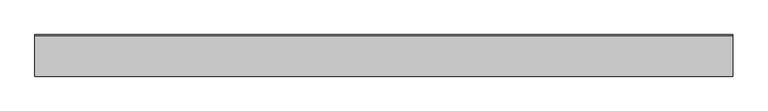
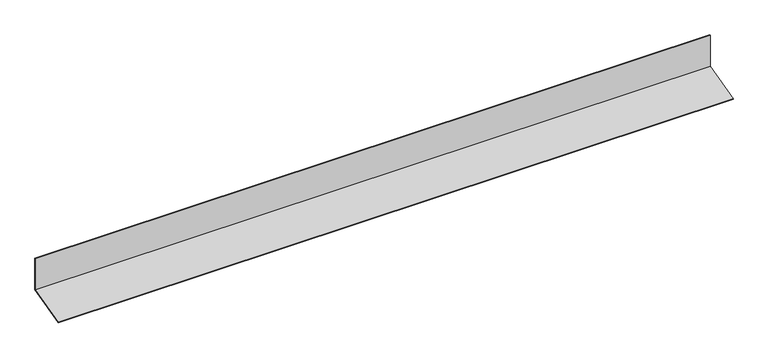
"""IFC4 building model written with IfcOpenShell, lengths in millimetres: proxy geometry, Translucent Sheet Stopend Flashing1 : Translucent Sheet Stopend Flashing."""

import ifcopenshell
import ifcopenshell.guid

model = None  # the IFC model being written
_history = None  # IfcOwnerHistory: only IFC2X3 demands one
_inside = {}  # id of a spatial element -> (the spatial element, [elements in it])
_under = {}  # id of a project, library or spatial element -> (it, [spatial elements below it])
_declared = {}  # id of a project -> (the project, [libraries it declares])
_typed = {}  # id of a type object -> (the type object, [elements of that type])
_made_of = {}  # id of a material, layer set ... -> (it, [elements and type objects made of it])


def new_model(schema):
    """Start an empty IFC model of exactly this schema.

    Asked for "IFC4X3", IfcOpenShell would pick the latest addendum, in which some entities
    have other attributes; the version numbers below select the first issue.
    IFC2X3 requires an IfcOwnerHistory on every rooted entity: one is made here for all.
    """
    global model, _history
    if schema == "IFC4X3":
        model = ifcopenshell.file(schema_version=(4, 3, 0, 0))
    else:
        model = ifcopenshell.file(schema=schema)
    _inside.clear()
    _under.clear()
    _declared.clear()
    _typed.clear()
    _made_of.clear()
    _history = None
    if model.schema == "IFC2X3":
        org = make("IfcOrganization", Name="unknown")
        user = make(
            "IfcPersonAndOrganization",
            ThePerson=make("IfcPerson", FamilyName="unknown"),
            TheOrganization=org,
        )
        app = make(
            "IfcApplication",
            ApplicationDeveloper=org,
            Version="unknown",
            ApplicationFullName="unknown",
            ApplicationIdentifier="unknown",
        )
        _history = make(
            "IfcOwnerHistory",
            OwningUser=user,
            OwningApplication=app,
            ChangeAction="ADDED",
            CreationDate=0,
        )
    return model


def make(cls, **values):
    """One entity of the class cls with the attributes given. An attribute that is None is left unset."""
    return model.create_entity(
        cls, **{name: value for name, value in values.items() if value is not None}
    )


def rooted(cls, **values):
    """An entity with a GlobalId (a new one), such as an element, a storey or a relation."""
    return make(cls, GlobalId=ifcopenshell.guid.new(), OwnerHistory=_history, **values)


def si_unit(unit_type, name, prefix=None):
    """IfcSIUnit, for example si_unit("LENGTHUNIT", "METRE", prefix="MILLI")."""
    return make("IfcSIUnit", UnitType=unit_type, Prefix=prefix, Name=name)


def assignment(units):
    """IfcUnitAssignment: the units of a project."""
    return None if units is None else make("IfcUnitAssignment", Units=units)


def point(xyz):
    """IfcCartesianPoint."""
    return None if xyz is None else make("IfcCartesianPoint", Coordinates=xyz)


def direction(xyz):
    """IfcDirection."""
    return None if xyz is None else make("IfcDirection", DirectionRatios=xyz)


def frame(location, z_axis=None, x_axis=None):
    """IfcAxis2Placement3D, a coordinate frame: its origin and axes. An axis left out is left unset."""
    return make(
        "IfcAxis2Placement3D",
        Location=point(location),
        Axis=direction(z_axis),
        RefDirection=direction(x_axis),
    )


def origin():
    """The frame at (0, 0, 0) with its axes left unset."""
    return frame((0.0, 0.0, 0.0))


def place(relative_to, where):
    """IfcLocalPlacement: puts the frame where relative to a parent placement (None: the world)."""
    return make(
        "IfcLocalPlacement", PlacementRelTo=relative_to, RelativePlacement=where
    )


def context(
    kind, dimensions, precision=None, world=None, true_north=None, identifier=None
):
    """IfcGeometricRepresentationContext, for example the 3D "Model" context."""
    return make(
        "IfcGeometricRepresentationContext",
        ContextIdentifier=identifier,
        ContextType=kind,
        CoordinateSpaceDimension=dimensions,
        Precision=precision,
        WorldCoordinateSystem=world,
        TrueNorth=true_north,
    )


def project(units=None, contexts=None):
    """IfcProject with its units and contexts."""
    return rooted(
        "IfcProject",
        Name="project",
        RepresentationContexts=contexts,
        UnitsInContext=assignment(units),
    )


def spatial(cls, under=None, at=None, **own):
    """A site, building, storey or space (cls), placed at a placement, below another one or the project."""
    s = rooted(cls, ObjectPlacement=at, **own)
    if under is not None:
        _under.setdefault(under.id(), (under, []))[1].append(s)
    return s


def polyline(points):
    """IfcPolyline through the points."""
    return make("IfcPolyline", Points=[point(p) for p in points])


def outline(outer, holes=None, kind="AREA"):
    """IfcArbitraryClosedProfileDef: a profile drawn as a closed curve; with holes, ...WithVoids."""
    if holes is None:
        return make("IfcArbitraryClosedProfileDef", ProfileType=kind, OuterCurve=outer)
    return make(
        "IfcArbitraryProfileDefWithVoids",
        ProfileType=kind,
        OuterCurve=outer,
        InnerCurves=holes,
    )


def extrude(swept, where, along, depth):
    """IfcExtrudedAreaSolid: the profile swept, set in the frame where, extruded along a direction by depth."""
    return make(
        "IfcExtrudedAreaSolid",
        SweptArea=swept,
        Position=where,
        ExtrudedDirection=direction(along),
        Depth=depth,
    )


def shape(context_of_items, identifier, shape_type, items):
    """IfcShapeRepresentation: the items that make up one representation, for example the "Body"."""
    return make(
        "IfcShapeRepresentation",
        ContextOfItems=context_of_items,
        RepresentationIdentifier=identifier,
        RepresentationType=shape_type,
        Items=items,
    )


def source(mapping_origin, context_of_items, identifier, shape_type, items):
    """IfcRepresentationMap: a shape defined once, which mapped items show again and again."""
    return make(
        "IfcRepresentationMap",
        MappingOrigin=mapping_origin,
        MappedRepresentation=shape(context_of_items, identifier, shape_type, items),
    )


def transform(
    local_origin,
    x_axis=None,
    y_axis=None,
    z_axis=None,
    scale=None,
    scale2=None,
    scale3=None,
    uniform=True,
):
    """IfcCartesianTransformationOperator3D, or its non-uniform kind. x_axis, y_axis, z_axis: its Axis1, 2, 3."""
    if uniform:
        return make(
            "IfcCartesianTransformationOperator3D",
            Axis1=direction(x_axis),
            Axis2=direction(y_axis),
            LocalOrigin=point(local_origin),
            Scale=scale,
            Axis3=direction(z_axis),
        )
    return make(
        "IfcCartesianTransformationOperator3DnonUniform",
        Axis1=direction(x_axis),
        Axis2=direction(y_axis),
        LocalOrigin=point(local_origin),
        Scale=scale,
        Axis3=direction(z_axis),
        Scale2=scale2,
        Scale3=scale3,
    )


def mapped(mapping_source, mapping_target):
    """IfcMappedItem: shows the shape of a source again, moved by a transform."""
    return make(
        "IfcMappedItem", MappingSource=mapping_source, MappingTarget=mapping_target
    )


def made_of(thing, what):
    """Note that an element or type object is made of a material, layer set ...; save() writes the relation."""
    if what is not None:
        _made_of.setdefault(what.id(), (what, []))[1].append(thing)
    return thing


def element(
    cls,
    number,
    at=None,
    inside=None,
    cuts=None,
    type_object=None,
    material=None,
    context=None,
    identifier="Body",
    shape_type=None,
    held_by="IfcProductDefinitionShape",
    body=None,
    shapes=None,
    **own,
):
    """One element of the class cls, such as IfcWall. Its Tag is "e" and its number.

    at: its placement. inside: the storey or other place that contains it. cuts: it is an
    opening in that element (IfcRelVoidsElement). A single representation is given by context,
    identifier, shape_type and body (its items); several are given by shapes. held_by: the class
    of the entity that holds the representations. save() writes the other relations.
    """
    e = rooted(cls, Tag="e%d" % number, ObjectPlacement=at, **own)
    if body is not None:
        shapes = [shape(context, identifier, shape_type, body)]
    if shapes is not None:
        e.Representation = make(held_by, Representations=shapes)
    if inside is not None:
        _inside.setdefault(inside.id(), (inside, []))[1].append(e)
    if cuts is not None:
        rooted(
            "IfcRelVoidsElement", RelatingBuildingElement=cuts, RelatedOpeningElement=e
        )
    if type_object is not None:
        _typed.setdefault(type_object.id(), (type_object, []))[1].append(e)
    return made_of(e, material)


def aggregate(whole, parts):
    """IfcRelAggregates: a whole, such as a stair, and the parts it consists of."""
    return rooted("IfcRelAggregates", RelatingObject=whole, RelatedObjects=parts)


def save(model, path):
    """Write the relations noted so far, then the file.

    IfcRelAggregates (storeys below a building ...), IfcRelContainedInSpatialStructure (elements
    in a storey), IfcRelDefinesByType, IfcRelAssociatesMaterial and IfcRelDeclares: one each for
    every whole, place, type object, material and project.
    """
    for whole, parts in _under.values():
        aggregate(whole, parts)
    for where, things in _inside.values():
        rooted(
            "IfcRelContainedInSpatialStructure",
            RelatedElements=things,
            RelatingStructure=where,
        )
    for kind, things in _typed.values():
        rooted("IfcRelDefinesByType", RelatedObjects=things, RelatingType=kind)
    for what, things in _made_of.values():
        rooted("IfcRelAssociatesMaterial", RelatedObjects=things, RelatingMaterial=what)
    for by, libraries in _declared.values():
        rooted("IfcRelDeclares", RelatingContext=by, RelatedDefinitions=libraries)
    model.write(path)


def generic_models_ed2bcc53(model_context):
    return source(origin(), model_context, "Body", "SweptSolid", [
        extrude(outline(polyline([(-10132.2979315, 1774.4460745), (-10132.2979315, 1830.0913228), (-10131.2979315, 1830.0913228), (-10131.2979315, 1773.6787475), (-10199.553268, 1755.3897852), (-10199.812087, 1756.355711), (-10132.2979315, 1774.4460745)])), frame((-8420.666048, 0.0, 0.0), z_axis=(1.0, 0.0, 0.0), x_axis=(0.0, 1.0, 0.0)), (0.0, 0.0, 1.0), 1150.0),
    ])


if __name__ == "__main__":
    model = new_model("IFC4")
    model_context = context("Model", 3, world=origin())
    ifc_project = project(units=[si_unit("LENGTHUNIT", "METRE", prefix="MILLI")], contexts=[model_context])
    site = spatial("IfcSite", under=ifc_project)
    building = spatial("IfcBuilding", under=site)
    placement = place(None, origin())
    generic_models_shape = generic_models_ed2bcc53(model_context)
    element("IfcBuildingElementProxy", 1, Name="Translucent Sheet Stopend Flashing1 : Translucent Sheet Stopend Flashing", ObjectType="Translucent Sheet Stopend Flashing1 : Translucent Sheet Stopend Flashing", at=placement, inside=building, context=model_context, shape_type="MappedRepresentation", body=[
        mapped(generic_models_shape, transform((0.0, 0.0, 0.0), x_axis=(1.0, 0.0, 0.0), y_axis=(0.0, 1.0, 0.0), z_axis=(0.0, 0.0, 1.0))),
    ])
    save(model, "model.ifc")
